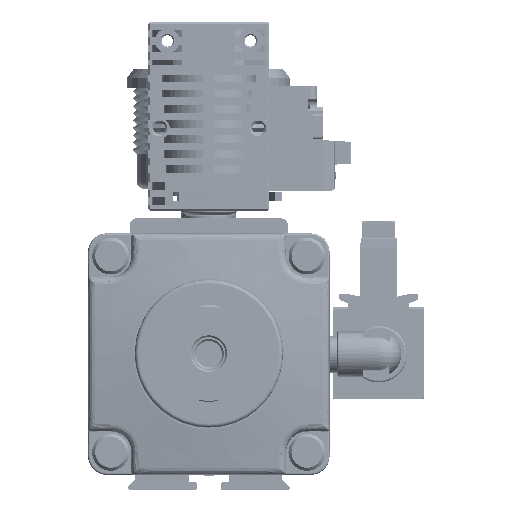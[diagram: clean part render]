
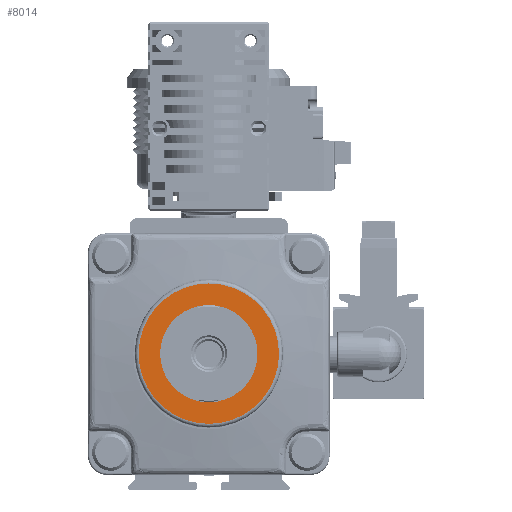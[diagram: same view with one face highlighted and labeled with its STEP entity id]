
A CAD part, left-side view. The second image highlights one B-rep face of the part: STEP entity #8014.
In plain terms, the highlighted planar face has unit normal (-1, 0, 0).
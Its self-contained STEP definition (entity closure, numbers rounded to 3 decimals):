
#8014 = ADVANCED_FACE( '', ( #17222, #17223 ), #17224, .F. );
#17222 = FACE_OUTER_BOUND( '', #29691, .T. );
#17223 = FACE_BOUND( '', #29692, .T. );
#17224 = PLANE( '', #29693 );
#29691 = EDGE_LOOP( '', ( #53992 ) );
#29692 = EDGE_LOOP( '', ( #53993 ) );
#29693 = AXIS2_PLACEMENT_3D( '', #53994, #53995, #53996 );
#53992 = ORIENTED_EDGE( '', *, *, #66397, .T. );
#53993 = ORIENTED_EDGE( '', *, *, #68745, .F. );
#53994 = CARTESIAN_POINT( '', ( -64.5, 0., 0. ) );
#53995 = DIRECTION( '', ( 1., 0., 0. ) );
#53996 = DIRECTION( '', ( 0., 1., 0. ) );
#66397 = EDGE_CURVE( '', #81194, #81194, #81195, .T. );
#68745 = EDGE_CURVE( '', #84376, #84376, #84377, .T. );
#81194 = VERTEX_POINT( '', #104009 );
#81195 = CIRCLE( '', #104010, 18.6 );
#84376 = VERTEX_POINT( '', #109370 );
#84377 = CIRCLE( '', #109371, 12.9 );
#104009 = CARTESIAN_POINT( '', ( -64.5, 0., -18.6 ) );
#104010 = AXIS2_PLACEMENT_3D( '', #120373, #120374, #120375 );
#109370 = CARTESIAN_POINT( '', ( -64.5, 0., -12.9 ) );
#109371 = AXIS2_PLACEMENT_3D( '', #122811, #122812, #122813 );
#120373 = CARTESIAN_POINT( '', ( -64.5, 0., 0. ) );
#120374 = DIRECTION( '', ( -1., 0., 0. ) );
#120375 = DIRECTION( '', ( 0., 0., -1. ) );
#122811 = CARTESIAN_POINT( '', ( -64.5, 0., 0. ) );
#122812 = DIRECTION( '', ( -1., 0., 0. ) );
#122813 = DIRECTION( '', ( 0., 0., -1. ) );
